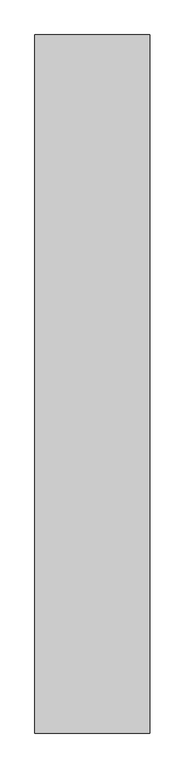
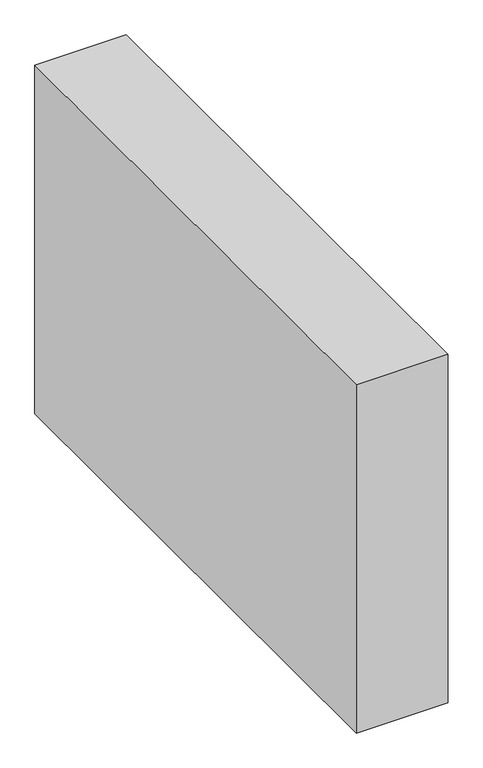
"""IFC4 building model written with IfcOpenShell, lengths in millimetres: furniture geometry, Muebles de obra 1 : Separador."""

from ifc_helpers import new_model, si_unit, frame, origin, place, context, project, spatial, polyline, outline, extrude, source, transform, mapped, element, save


def furniture_1dcb9a52(model_context):
    return source(origin(), model_context, "Body", "SweptSolid", [
        extrude(outline(polyline([(11275.1519584, 1489.8518575), (11876.8416135, 1489.8518575), (11876.8416135, -2171.1136598), (11275.1519584, -2171.1136598), (11275.1519584, 1489.8518575)])), frame((0.0, 0.0, 1430.0), z_axis=(0.0, 0.0, 1.0), x_axis=(1.0, 0.0, 0.0)), (0.0, 0.0, 1.0), 2420.0),
    ])


if __name__ == "__main__":
    model = new_model("IFC4")
    model_context = context("Model", 3, world=origin())
    ifc_project = project(units=[si_unit("LENGTHUNIT", "METRE", prefix="MILLI")], contexts=[model_context])
    site = spatial("IfcSite", under=ifc_project)
    building = spatial("IfcBuilding", under=site)
    placement = place(None, origin())
    furniture_shape = furniture_1dcb9a52(model_context)
    element("IfcFurniture", 1, ObjectType="Muebles de obra 1 : Separador", at=placement, inside=building, context=model_context, shape_type="MappedRepresentation", body=[
        mapped(furniture_shape, transform((0.0, 0.0, 0.0), x_axis=(1.0, 0.0, 0.0), y_axis=(0.0, 1.0, 0.0), z_axis=(0.0, 0.0, 1.0))),
    ])
    save(model, "model.ifc")
